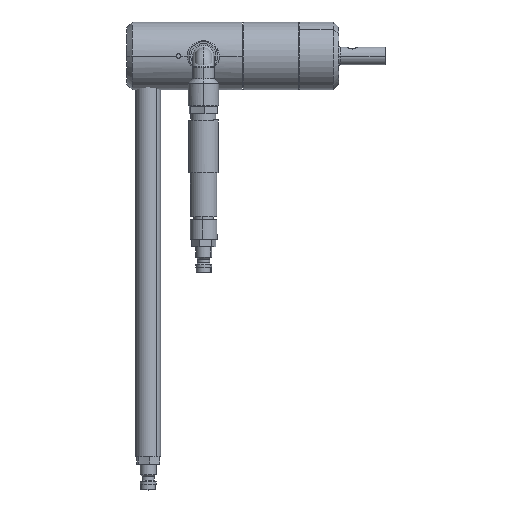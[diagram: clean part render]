
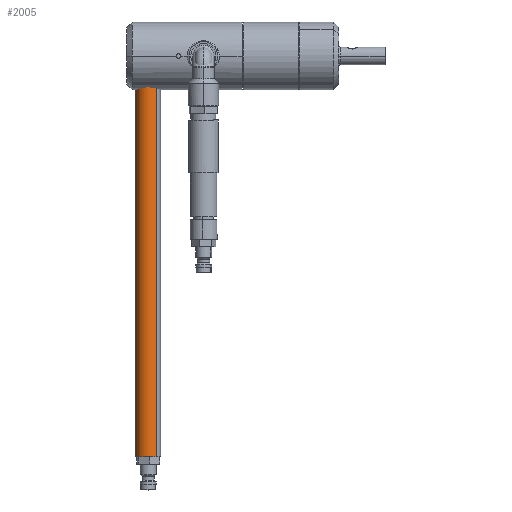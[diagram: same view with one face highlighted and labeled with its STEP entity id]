
A CAD part, left-side view. The second image highlights one B-rep face of the part: STEP entity #2005.
In plain terms, the highlighted cylindrical face has radius 7 mm (diameter 14 mm), a partial arc.
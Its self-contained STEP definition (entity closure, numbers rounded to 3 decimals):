
#13 = DIRECTION ( 'NONE',  ( 0., -1., 0. ) ) ;
#214 = FACE_OUTER_BOUND ( 'NONE', #2871, .T. ) ;
#607 = VERTEX_POINT ( 'NONE', #1516 ) ;
#642 = VERTEX_POINT ( 'NONE', #4038 ) ;
#764 = AXIS2_PLACEMENT_3D ( 'NONE', #5438, #1730, #6058 ) ;
#1102 = CYLINDRICAL_SURFACE ( 'NONE', #3552, 7. ) ;
#1229 = DIRECTION ( 'NONE',  ( 0., 0., -1. ) ) ;
#1516 = CARTESIAN_POINT ( 'NONE',  ( 0., 0., 7. ) ) ;
#1616 = DIRECTION ( 'NONE',  ( 0., 1., 0. ) ) ;
#1730 = DIRECTION ( 'NONE',  ( 0., -1., 0. ) ) ;
#1744 = EDGE_CURVE ( 'NONE', #642, #607, #6726, .T. ) ;
#2005 = ADVANCED_FACE ( 'NONE', ( #214 ), #1102, .T. ) ;
#2032 = EDGE_CURVE ( 'NONE', #2167, #642, #4400, .T. ) ;
#2077 = AXIS2_PLACEMENT_3D ( 'NONE', #5341, #1616, #5952 ) ;
#2167 = VERTEX_POINT ( 'NONE', #5075 ) ;
#2332 = EDGE_CURVE ( 'NONE', #4979, #607, #7576, .T. ) ;
#2466 = CARTESIAN_POINT ( 'NONE',  ( 0., 220., 0. ) ) ;
#2488 = CARTESIAN_POINT ( 'NONE',  ( 0., 220., -7. ) ) ;
#2871 = EDGE_LOOP ( 'NONE', ( #4560, #7607, #6864, #6786 ) ) ;
#3027 = CIRCLE ( 'NONE', #764, 7. ) ;
#3552 = AXIS2_PLACEMENT_3D ( 'NONE', #2466, #6157, #1229 ) ;
#3766 = CARTESIAN_POINT ( 'NONE',  ( 0., 219.8, 7. ) ) ;
#4038 = CARTESIAN_POINT ( 'NONE',  ( 0., 0., -7. ) ) ;
#4206 = VECTOR ( 'NONE', #13, 1000. ) ;
#4400 = LINE ( 'NONE', #2488, #4206 ) ;
#4560 = ORIENTED_EDGE ( 'NONE', *, *, #2332, .F. ) ;
#4662 = DIRECTION ( 'NONE',  ( 0., -1., 0. ) ) ;
#4804 = EDGE_CURVE ( 'NONE', #4979, #2167, #3027, .T. ) ;
#4979 = VERTEX_POINT ( 'NONE', #3766 ) ;
#5075 = CARTESIAN_POINT ( 'NONE',  ( 0., 219.8, -7. ) ) ;
#5341 = CARTESIAN_POINT ( 'NONE',  ( 0., 0., 0. ) ) ;
#5438 = CARTESIAN_POINT ( 'NONE',  ( 0., 219.8, 0. ) ) ;
#5913 = VECTOR ( 'NONE', #4662, 1000. ) ;
#5952 = DIRECTION ( 'NONE',  ( 0., 0., 1. ) ) ;
#6058 = DIRECTION ( 'NONE',  ( 0., 0., 1. ) ) ;
#6157 = DIRECTION ( 'NONE',  ( 0., -1., 0. ) ) ;
#6726 = CIRCLE ( 'NONE', #2077, 7. ) ;
#6786 = ORIENTED_EDGE ( 'NONE', *, *, #1744, .T. ) ;
#6864 = ORIENTED_EDGE ( 'NONE', *, *, #2032, .T. ) ;
#7092 = CARTESIAN_POINT ( 'NONE',  ( 0., 220., 7. ) ) ;
#7576 = LINE ( 'NONE', #7092, #5913 ) ;
#7607 = ORIENTED_EDGE ( 'NONE', *, *, #4804, .T. ) ;
